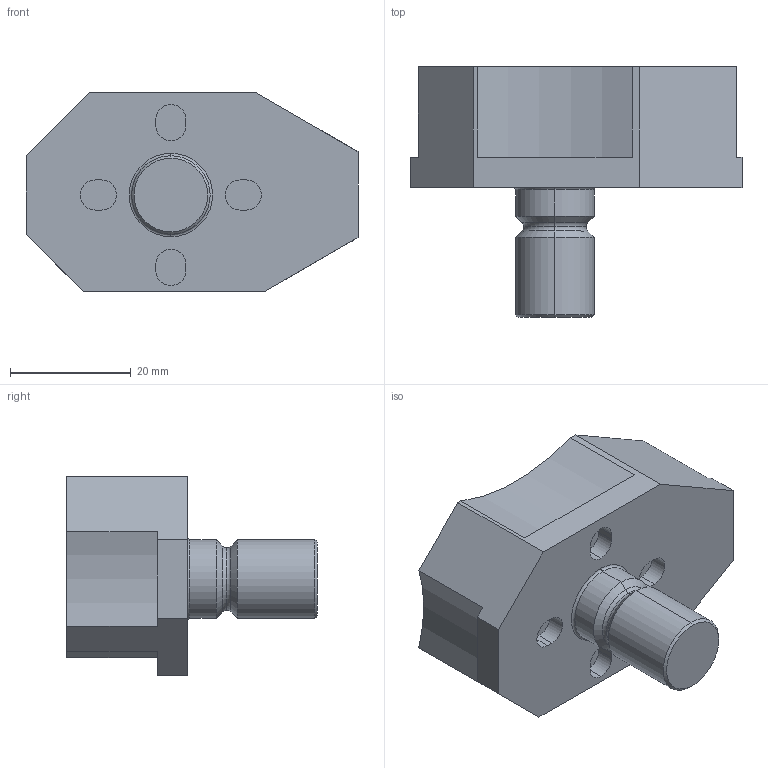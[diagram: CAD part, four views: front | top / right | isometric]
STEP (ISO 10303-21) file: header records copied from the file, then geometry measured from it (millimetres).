
FILE_DESCRIPTION (( 'STEP AP214' ), '1' );
FILE_NAME ('DHP-NTS-HJ311.STEP', '2025-04-16T07:09:33', ( '' ), ( '' ), 'SwSTEP 2.0', 'SolidWorks 2022', '' );
FILE_SCHEMA (( 'AUTOMOTIVE_DESIGN' ));
Length unit declared in the file: millimetre
Products named in the file (1): DHP-NTS-HJ311
Bounding box: 55 x 41.5 x 33 mm (x, y, z)
Volume: 28322.9 mm3; surface area: 7202.6 mm2
Topology: 1 solids, 1 shells, 58 faces, 139 edges, 88 vertices
Faces by surface type: plane 27, cylinder 19, torus 6, cone 6
Entity records: 1719 total; most frequent: DIRECTION 311, CARTESIAN_POINT 286, ORIENTED_EDGE 278, EDGE_CURVE 139, AXIS2_PLACEMENT_3D 113, VERTEX_POINT 88, LINE 85, VECTOR 85
